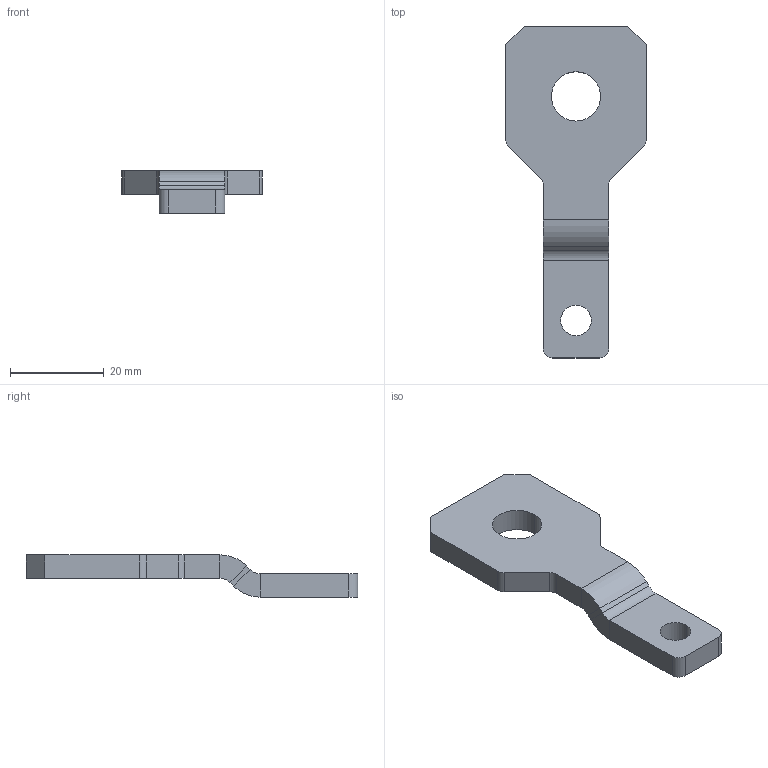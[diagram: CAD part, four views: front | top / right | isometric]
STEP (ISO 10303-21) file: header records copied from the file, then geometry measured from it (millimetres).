
FILE_DESCRIPTION (( 'STEP AP203' ), '1' );
FILE_NAME ('8LD.580.1043.STEP', '2024-09-19T12:19:46', ( 'A' ), ( '' ), 'SwSTEP 2.0', 'SolidWorks 2018', '' );
FILE_SCHEMA (( 'CONFIG_CONTROL_DESIGN' ));
Length unit declared in the file: millimetre
Products named in the file (1): 8LD.580.1043
Bounding box: 30 x 70.7 x 9 mm (x, y, z)
Volume: 6664.4 mm3; surface area: 3871 mm2
Topology: 1 solids, 1 shells, 38 faces, 92 edges, 56 vertices
Faces by surface type: plane 24, cylinder 14
Entity records: 1181 total; most frequent: DIRECTION 198, CARTESIAN_POINT 187, ORIENTED_EDGE 184, EDGE_CURVE 92, AXIS2_PLACEMENT_3D 67, VECTOR 64, LINE 64, VERTEX_POINT 56
